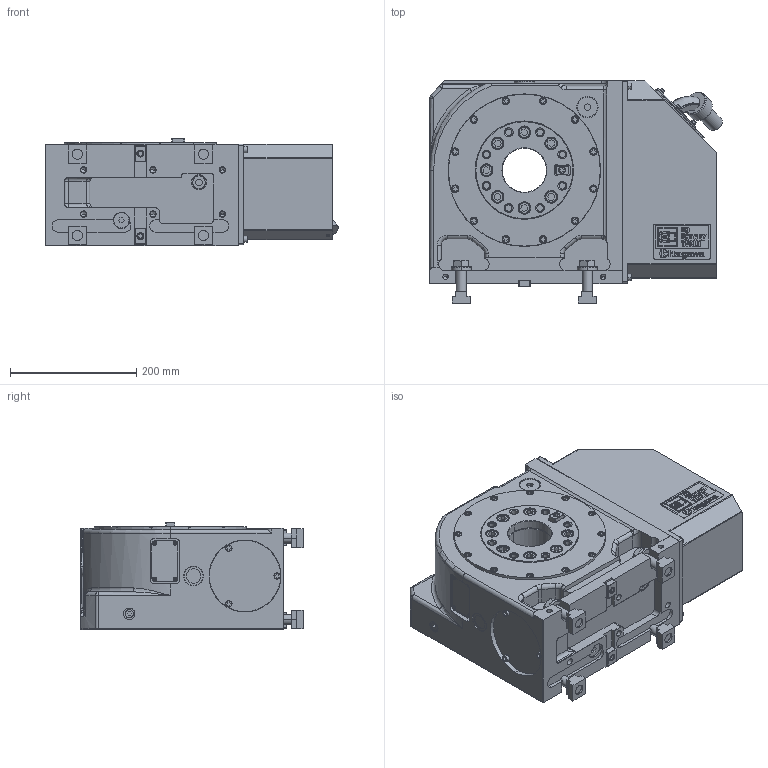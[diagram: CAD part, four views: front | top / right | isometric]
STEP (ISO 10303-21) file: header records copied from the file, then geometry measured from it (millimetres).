
FILE_DESCRIPTION (( 'STEP AP214' ), '1' );
FILE_NAME ('【掲載用】MK250Quinte右勝手.STEP', '2019-10-10T23:54:01', ( '' ), ( '' ), 'SwSTEP 2.0', 'SolidWorks 2017', '' );
FILE_SCHEMA (( 'AUTOMOTIVE_DESIGN' ));
Length unit declared in the file: millimetre
Products named in the file (12): CLAMPING PARTS(61E4889120)MK250D2; T僗儘僢僩僫僢僩俿俶俵侾俉侾俇; B パーカ　M16×55; ワッシャ(61E4887570); MK250RAVホンタイ; 働乕僽儖N29ZSZ2562; キタガワシール; モータケース(61E2845951)MK250RAV00; MK250_TABLE; ガイドブロック(61M4197783); MK250R_BASE; 【掲載用】MK250Quinte右勝手
Assembly tree (15 placements, depth 3):
  【掲載用】MK250Quinte右勝手
    MK250RAVホンタイ
      MK250R_BASE
      ガイドブロック(61M4197783)  x2
      MK250_TABLE
      モータケース(61E2845951)MK250RAV00
      キタガワシール
      働乕僽儖N29ZSZ2562
    CLAMPING PARTS(61E4889120)MK250D2  x4
      ワッシャ(61E4887570)
      B パーカ　M16×55
      T僗儘僢僩僫僢僩俿俶俵侾俉侾俇
Bounding box: 463.78 x 353 x 170 mm (x, y, z)
Volume: 19179112.6 mm3; surface area: 1088837.8 mm2
Topology: 19 solids, 34 shells, 3461 faces, 8814 edges, 5635 vertices
Faces by surface type: plane 2286, cylinder 689, cone 373, torus 79, bspline 21, sphere 13
Entity records: 113914 total; most frequent: CARTESIAN_POINT 18762, ORIENTED_EDGE 16740, DIRECTION 16565, EDGE_CURVE 8370, LINE 6571, VECTOR 6571, VERTEX_POINT 5419, AXIS2_PLACEMENT_3D 4997
